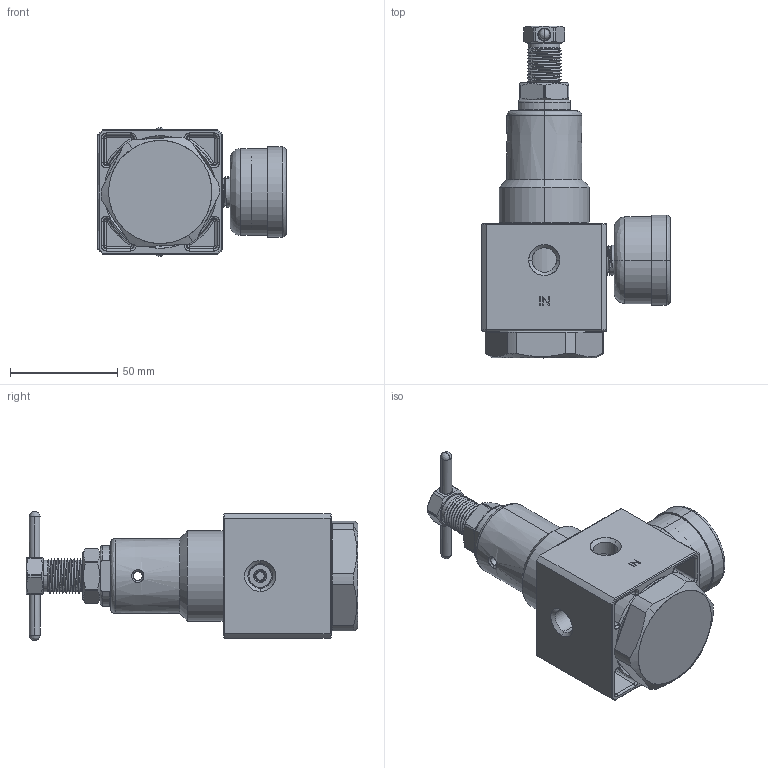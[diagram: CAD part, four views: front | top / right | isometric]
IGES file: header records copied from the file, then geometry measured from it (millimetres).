
Start section: SolidWorks IGES file using analytic representation for surfaces
Bounding box: 87.55 x 154.5 x 60 mm (x, y, z)
Surface area: 79191.3 mm2 (no closed solid volume)
Topology: 0 solids, 0 shells, 899 faces, 12727 edges, 12718 vertices
Faces by surface type: bspline 492, revolution 407
